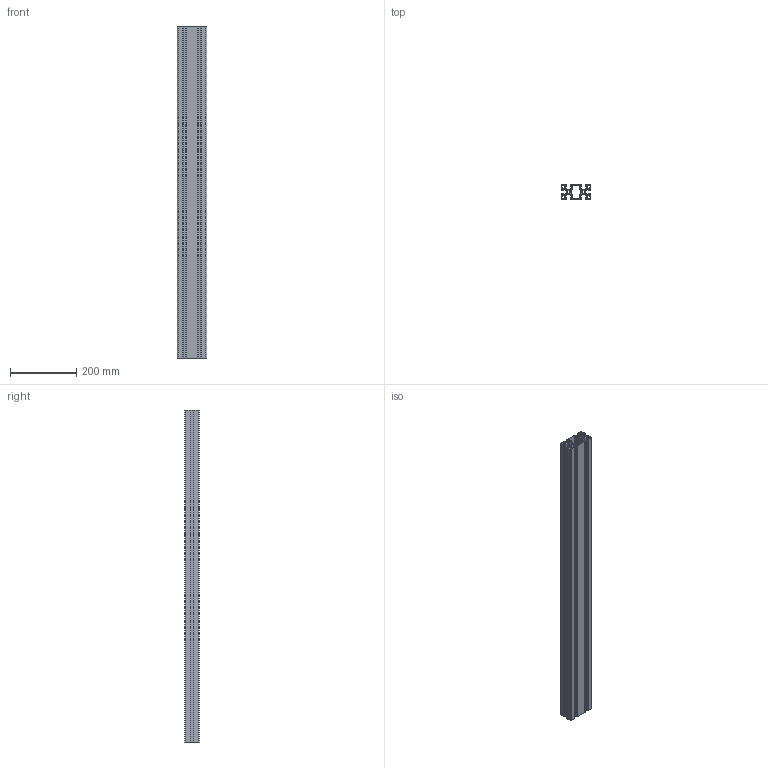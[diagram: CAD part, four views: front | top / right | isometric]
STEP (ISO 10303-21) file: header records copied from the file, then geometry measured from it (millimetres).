
FILE_DESCRIPTION (( 'STEP AP214' ), '1' );
FILE_NAME ('559L Êîíñòðóêöèîííûé ïðîôèëü 45õ90L.STEP', '2014-12-19T10:39:16', ( 'XTreme.ws' ), ( 'XTreme.ws' ), 'SwSTEP 2.0', 'SolidWorks 2014', '' );
FILE_SCHEMA (( 'AUTOMOTIVE_DESIGN' ));
Length unit declared in the file: millimetre
Products named in the file (2): 559L Êîíñòðóêöèîííûé ïðîôèëü 45õ90L
Bounding box: 90 x 45 x 1000 mm (x, y, z)
Volume: 964751.3 mm3; surface area: 971231.4 mm2
Topology: 1 solids, 1 shells, 218 faces, 648 edges, 432 vertices
Faces by surface type: cylinder 112, plane 106
Entity records: 7453 total; most frequent: DIRECTION 1312, CARTESIAN_POINT 1300, ORIENTED_EDGE 1296, EDGE_CURVE 648, AXIS2_PLACEMENT_3D 444, VERTEX_POINT 432, VECTOR 424, LINE 424
